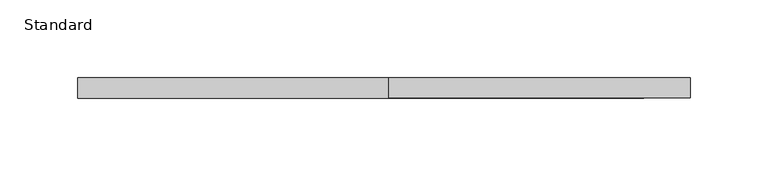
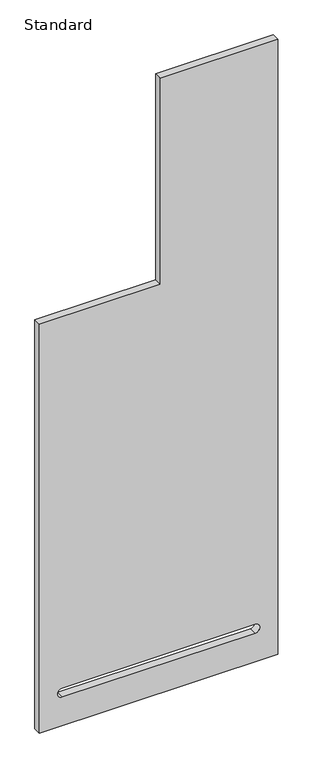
"""IFC4 building model written with IfcOpenShell, lengths in millimetres: furniture geometry, X_Locker-Duracube-Door : Standard."""

from ifc_helpers import new_model, si_unit, point, frame, frame_2d, origin, place, context, project, spatial, polyline, circle_curve, trimmed, segment, composite_curve, outline, extrude, source, transform, mapped, element, save


def standard_e3a21a26(model_context):
    return source(origin(), model_context, "Body", "SweptSolid", [
        extrude(outline(polyline([(3.0, -152.2996736), (3.0, 241.7003264), (1077.0, 241.7003264), (1077.0, 47.7003264), (717.0, 47.7003264), (717.0, -152.2996736), (3.0, -152.2996736)]), holes=[composite_curve([segment(trimmed(circle_curve(frame_2d((60.5, 204.2003264)), 7.5), [point((68.0, 204.2003264))], [point((53.0, 204.2003264))], True, "CARTESIAN"), True, "CONTINUOUS"), segment(polyline([(53.0, 204.2003264), (53.0, -114.7996736)]), True, "CONTINUOUS"), segment(trimmed(circle_curve(frame_2d((60.5, -114.7996736)), 7.5), [point((53.0, -114.7996736))], [point((68.0, -114.7996736))], True, "CARTESIAN"), True, "CONTINUOUS"), segment(polyline([(68.0, -114.7996736), (68.0, 204.2003264)]), True, "CONTINUOUS")], self_intersect=False)]), frame((0.0, -13.0, 0.0), z_axis=(0.0, 1.0, 0.0), x_axis=(0.0, 0.0, 1.0)), (0.0, 0.0, 1.0), 13.0),
    ])


if __name__ == "__main__":
    model = new_model("IFC4")
    model_context = context("Model", 3, world=origin())
    ifc_project = project(units=[si_unit("LENGTHUNIT", "METRE", prefix="MILLI")], contexts=[model_context])
    site = spatial("IfcSite", under=ifc_project)
    building = spatial("IfcBuilding", under=site)
    placement = place(None, origin())
    standard_shape = standard_e3a21a26(model_context)
    element("IfcFurniture", 1, ObjectType="X_Locker-Duracube-Door : Standard", at=placement, inside=building, context=model_context, shape_type="MappedRepresentation", body=[
        mapped(standard_shape, transform((0.0, 0.0, 0.0), x_axis=(1.0, 0.0, 0.0), y_axis=(0.0, 1.0, 0.0), z_axis=(0.0, 0.0, 1.0))),
    ])
    save(model, "model.ifc")
